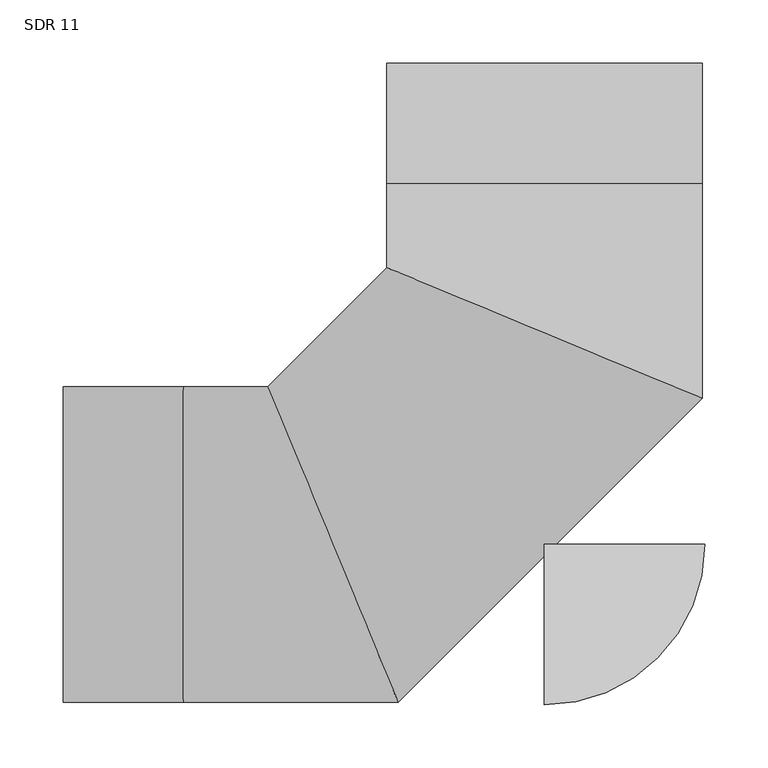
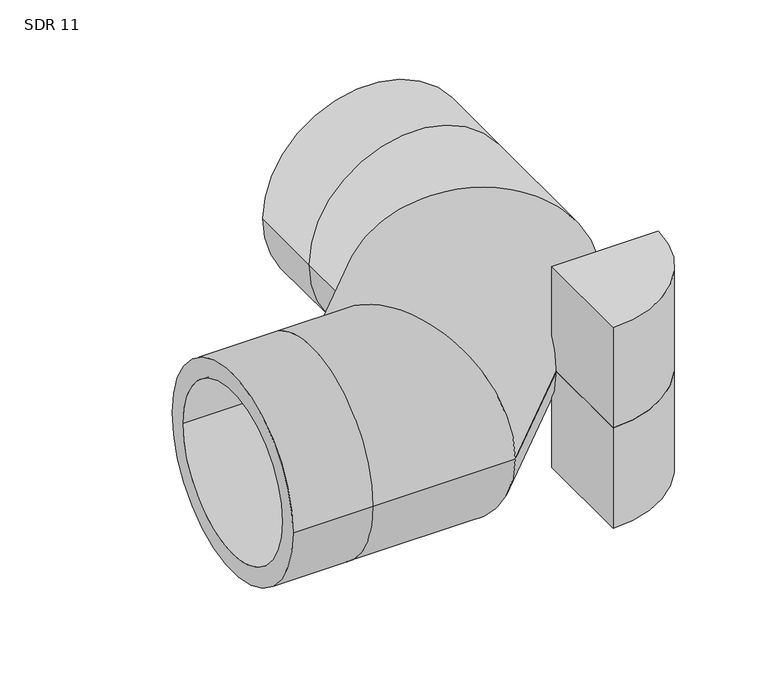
"""IFC4 building model written with IfcOpenShell, lengths in millimetres: pipe fitting geometry, Aquatherm - Elbow Blue BW Segmented : SDR 11."""

from ifc_helpers import new_model, si_unit, point, frame, origin, origin_with_axes, origin_2d, place, context, project, spatial, polyline, circle_curve, ellipse_curve, trimmed, segment, composite_curve, outline, extrude, source, transform, mapped, element, save
from ifc_brep_helpers import plane_surface, cylinder_surface, revolved_surface, advanced_brep


def sdr_11_72c19981(model_context):
    return source(origin(), model_context, "Body", "SolidModel", [
        extrude(outline(composite_curve([segment(polyline([(0.0, -127.0), (0.0, 0.0), (127.0, 0.0)]), True, "CONTINUOUS"), segment(trimmed(circle_curve(origin_2d(), 127.0), [point((127.0, 0.0))], [point((0.0, -127.0))], False, "CARTESIAN"), True, "CONTINUOUS")], self_intersect=False)), frame((0.0, 0.0, -127.0), z_axis=(0.0, 0.0, 1.0), x_axis=(1.0, 0.0, 0.0)), (0.0, 0.0, 1.0), 127.0),
        extrude(outline(composite_curve([segment(trimmed(circle_curve(origin_2d(), 127.0), [point((127.0, 0.0))], [point((0.0, -127.0))], False, "CARTESIAN"), True, "CONTINUOUS"), segment(polyline([(0.0, -127.0), (0.0, 0.0), (127.0, 0.0)]), True, "CONTINUOUS")], self_intersect=False)), origin_with_axes(), (0.0, 0.0, 1.0), 127.0),
        advanced_brep(
        [(-381.0, -124.968, 0.0), (-381.0, 124.968, 0.0), (-381.0, -102.2465455, 0.0), (-381.0, 102.2465455, 0.0), (124.968, 381.0, 0.0), (-124.968, 381.0, 0.0), (102.2465455, 381.0, 0.0), (-102.2465455, 381.0, 0.0), (-285.75, -124.968, 0.0), (-285.75, 124.968, 0.0), (-285.75, -102.2465455, 0.0), (-285.75, 102.2465455, 0.0), (-115.6250341, -124.968, 0.0), (-219.151915, 124.968, 0.0), (-125.0365687, -102.2465455, 0.0), (-209.7403804, 102.2465455, 0.0), (124.968, 115.6250341, 0.0), (-124.968, 219.151915, 0.0), (102.2465455, 125.0365687, 0.0), (-102.2465455, 209.7403804, 0.0), (-124.968, 285.75, 0.0), (124.968, 285.75, 0.0), (-102.2465455, 285.75, 0.0), (102.2465455, 285.75, 0.0)],
        [
            (0, 1, circle_curve(frame((-381.0, 0.0, 0.0), z_axis=(-1.0, 0.0, 0.0), x_axis=(0.0, 1.0, 0.0)), 124.968)),
            (1, 0, circle_curve(frame((-381.0, 0.0, 0.0), z_axis=(-1.0, 0.0, 0.0), x_axis=(0.0, 1.0, 0.0)), 124.968)),
            (2, 3, circle_curve(frame((-381.0, 0.0, 0.0), z_axis=(1.0, 0.0, 0.0), x_axis=(0.0, 1.0, 0.0)), 102.2465455)),
            (3, 2, circle_curve(frame((-381.0, 0.0, 0.0), z_axis=(1.0, 0.0, 0.0), x_axis=(0.0, 1.0, 0.0)), 102.2465455)),
            (4, 5, circle_curve(frame((0.0, 381.0, 0.0), z_axis=(0.0, 1.0, 0.0), x_axis=(-1.0, 0.0, 0.0)), 124.968)),
            (5, 4, circle_curve(frame((0.0, 381.0, 0.0), z_axis=(0.0, 1.0, 0.0), x_axis=(-1.0, 0.0, 0.0)), 124.968)),
            (6, 7, circle_curve(frame((0.0, 381.0, 0.0), z_axis=(0.0, -1.0, 0.0), x_axis=(-1.0, 0.0, 0.0)), 102.2465455)),
            (7, 6, circle_curve(frame((0.0, 381.0, 0.0), z_axis=(0.0, -1.0, 0.0), x_axis=(-1.0, 0.0, 0.0)), 102.2465455)),
            (0, 8),
            (8, 9, circle_curve(frame((-285.75, 0.0, 0.0), z_axis=(-1.0, 0.0, 0.0), x_axis=(0.0, 1.0, 0.0)), 124.968)),
            (9, 1),
            (9, 8, circle_curve(frame((-285.75, 0.0, 0.0), z_axis=(-1.0, 0.0, 0.0), x_axis=(0.0, 1.0, 0.0)), 124.968)),
            (2, 10),
            (10, 11, circle_curve(frame((-285.75, 0.0, 0.0), z_axis=(1.0, 0.0, 0.0), x_axis=(0.0, 1.0, 0.0)), 102.2465455)),
            (11, 3),
            (11, 10, circle_curve(frame((-285.75, 0.0, 0.0), z_axis=(1.0, 0.0, 0.0), x_axis=(0.0, 1.0, 0.0)), 102.2465455)),
            (8, 12),
            (12, 13, ellipse_curve(frame((-167.3884746, 0.0, 0.0), z_axis=(-0.9238795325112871, -0.38268343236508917, 0.0), x_axis=(-0.3826834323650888, 0.9238795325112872, 0.0)), 135.2643885, 124.968)),
            (13, 9),
            (13, 12, ellipse_curve(frame((-167.3884746, 0.0, 0.0), z_axis=(-0.9238795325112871, -0.38268343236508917, 0.0), x_axis=(-0.3826834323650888, 0.9238795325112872, 0.0)), 135.2643885, 124.968)),
            (10, 14),
            (14, 15, ellipse_curve(frame((-167.3884746, 0.0, 0.0), z_axis=(0.9238795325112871, 0.38268343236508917, 0.0), x_axis=(0.3826834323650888, -0.9238795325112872, 0.0)), 110.6708633, 102.2465455)),
            (15, 11),
            (15, 14, ellipse_curve(frame((-167.3884746, 0.0, 0.0), z_axis=(0.9238795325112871, 0.38268343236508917, 0.0), x_axis=(0.3826834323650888, -0.9238795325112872, 0.0)), 110.6708633, 102.2465455)),
            (12, 16),
            (16, 17, ellipse_curve(frame((0.0, 167.3884746, 0.0), z_axis=(-0.3826834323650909, -0.9238795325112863, 0.0), x_axis=(-0.9238795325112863, 0.382683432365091, 0.0)), 135.2643885, 124.968)),
            (17, 13),
            (17, 16, ellipse_curve(frame((0.0, 167.3884746, 0.0), z_axis=(-0.3826834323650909, -0.9238795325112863, 0.0), x_axis=(-0.9238795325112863, 0.382683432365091, 0.0)), 135.2643885, 124.968)),
            (14, 18),
            (18, 19, ellipse_curve(frame((0.0, 167.3884746, 0.0), z_axis=(0.3826834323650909, 0.9238795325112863, 0.0), x_axis=(0.9238795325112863, -0.382683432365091, 0.0)), 110.6708633, 102.2465455)),
            (19, 15),
            (19, 18, ellipse_curve(frame((0.0, 167.3884746, 0.0), z_axis=(0.3826834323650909, 0.9238795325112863, 0.0), x_axis=(0.9238795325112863, -0.382683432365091, 0.0)), 110.6708633, 102.2465455)),
            (20, 21, circle_curve(frame((0.0, 285.75, 0.0), z_axis=(0.0, 1.0, 0.0), x_axis=(-1.0, 0.0, 0.0)), 124.968)),
            (21, 4),
            (5, 20),
            (21, 20, circle_curve(frame((0.0, 285.75, 0.0), z_axis=(0.0, 1.0, 0.0), x_axis=(-1.0, 0.0, 0.0)), 124.968)),
            (22, 23, circle_curve(frame((0.0, 285.75, 0.0), z_axis=(0.0, -1.0, 0.0), x_axis=(-1.0, 0.0, 0.0)), 102.2465455)),
            (23, 6),
            (7, 22),
            (23, 22, circle_curve(frame((0.0, 285.75, 0.0), z_axis=(0.0, -1.0, 0.0), x_axis=(-1.0, 0.0, 0.0)), 102.2465455)),
            (16, 21),
            (20, 17),
            (18, 23),
            (22, 19),
        ],
        [
            plane_surface(frame((-381.0, 0.0, 0.0), z_axis=(-1.0, 0.0, 0.0), x_axis=(0.0, 0.0, 1.0))),
            plane_surface(frame((0.0, 381.0, 0.0), z_axis=(0.0, 1.0, 0.0), x_axis=(0.0, 0.0, 1.0))),
            cylinder_surface(frame((-381.0, 0.0, 0.0), z_axis=(-1.0, 0.0, 0.0), x_axis=(0.0, 1.0, 0.0)), 124.968),
            revolved_surface(polyline([(-285.75, 102.2465455, 0.0), (-381.0, 102.2465455, 0.0)]), (-381.0, 0.0, 0.0), (1.0, 0.0, 0.0)),
            cylinder_surface(frame((-285.75, 0.0, 0.0), z_axis=(-1.0, 0.0, 0.0), x_axis=(0.0, 1.0, 0.0)), 124.968),
            revolved_surface(polyline([(-125.0365687, 102.2465455, 0.0), (-285.75, 102.2465455, 0.0)]), (-285.75, 0.0, 0.0), (1.0, 0.0, 0.0)),
            cylinder_surface(frame((-167.3884746, 0.0, 0.0), z_axis=(-0.7071067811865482, -0.7071067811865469, 0.0), x_axis=(-0.7071067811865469, 0.7071067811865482, 0.0)), 124.968),
            revolved_surface(polyline([(-42.351905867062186, 269.6350200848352, 0.0), (-269.6350200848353, 42.35190586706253, 0.0)]), (-167.3884746, 0.0, 0.0), (0.7071067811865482, 0.7071067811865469, 0.0)),
            cylinder_surface(frame((0.0, 285.75, 0.0), z_axis=(0.0, -1.0, 0.0), x_axis=(-1.0, 0.0, 0.0)), 124.968),
            revolved_surface(polyline([(-102.2465455, 381.0, 0.0), (-102.2465455, 285.75, 0.0)]), (0.0, 285.75, 0.0), (0.0, 1.0, 0.0)),
            cylinder_surface(frame((0.0, 167.3884746, 0.0), z_axis=(0.0, -1.0, 0.0), x_axis=(-1.0, 0.0, 0.0)), 124.968),
            revolved_surface(polyline([(-102.2465455, 285.75, 0.0), (-102.2465455, 125.0365687, 0.0)]), (0.0, 167.3884746, 0.0), (0.0, 1.0, 0.0)),
        ],
        [
            (0, [[1, 2], [3, 4]]),
            (1, [[5, 6], [7, 8]]),
            (2, [[-1, 9, 10, 11]]),
            (2, [[-2, -11, 12, -9]]),
            (3, [[-3, 13, 14, 15]]),
            (3, [[-4, -15, 16, -13]]),
            (4, [[-10, 17, 18, 19]]),
            (4, [[-12, -19, 20, -17]]),
            (5, [[-14, 21, 22, 23]]),
            (5, [[-16, -23, 24, -21]]),
            (6, [[-18, 25, 26, 27]]),
            (6, [[-20, -27, 28, -25]]),
            (7, [[-22, 29, 30, 31]]),
            (7, [[-24, -31, 32, -29]]),
            (8, [[33, 34, -6, 35]]),
            (8, [[36, -35, -5, -34]]),
            (9, [[37, 38, -8, 39]]),
            (9, [[40, -39, -7, -38]]),
            (10, [[-26, 41, -33, 42]]),
            (10, [[-28, -42, -36, -41]]),
            (11, [[-30, 43, -37, 44]]),
            (11, [[-32, -44, -40, -43]]),
        ],
    ),
    ])


if __name__ == "__main__":
    model = new_model("IFC4")
    model_context = context("Model", 3, world=origin())
    ifc_project = project(units=[si_unit("LENGTHUNIT", "METRE", prefix="MILLI")], contexts=[model_context])
    site = spatial("IfcSite", under=ifc_project)
    building = spatial("IfcBuilding", under=site)
    placement = place(None, origin())
    sdr_11_shape = sdr_11_72c19981(model_context)
    element("IfcPipeFitting", 1, ObjectType="Aquatherm - Elbow Blue BW Segmented : SDR 11", at=placement, inside=building, context=model_context, shape_type="MappedRepresentation", body=[
        mapped(sdr_11_shape, transform((0.0, 0.0, 0.0), x_axis=(1.0, 0.0, 0.0), y_axis=(0.0, 1.0, 0.0), z_axis=(0.0, 0.0, 1.0))),
    ])
    save(model, "model.ifc")
